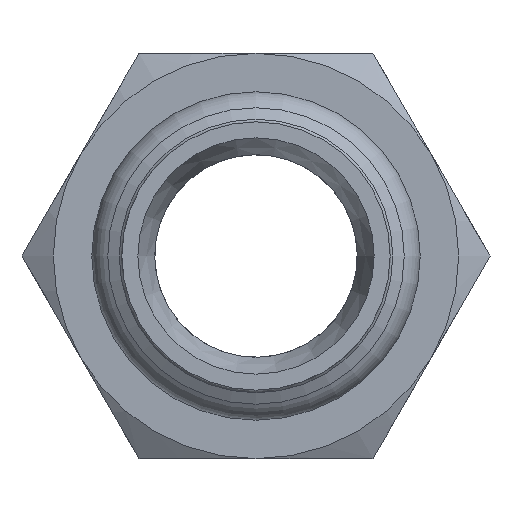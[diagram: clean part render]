
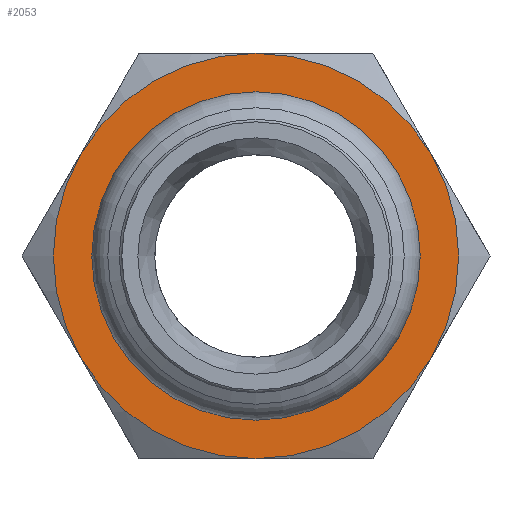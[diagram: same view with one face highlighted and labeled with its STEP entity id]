
A CAD part, left-side view. The second image highlights one B-rep face of the part: STEP entity #2053.
In plain terms, the highlighted planar face has unit normal (-1, 0, 0) as drawn and (0, 0, -1) by its records, which use the part's own axes.
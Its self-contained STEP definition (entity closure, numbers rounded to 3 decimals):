
#1513=CARTESIAN_POINT('',(16.454,9.5,0.));
#1514=VERTEX_POINT('',#1513);
#1528=CARTESIAN_POINT('',(16.454,-9.5,0.));
#1529=VERTEX_POINT('',#1528);
#1543=CARTESIAN_POINT('',(0.0,0.0,0.0));
#1544=DIRECTION('',(0.0,0.0,-1.0));
#1545=DIRECTION('',(0.0,-1.0,0.0));
#1546=AXIS2_PLACEMENT_3D('',#1543,#1544,#1545);
#1547=CIRCLE('',#1546,19.);
#1548=EDGE_CURVE('',#1514,#1529,#1547,.T.);
#1560=CARTESIAN_POINT('',(0.0,19.,0.));
#1561=VERTEX_POINT('',#1560);
#1588=CARTESIAN_POINT('',(0.0,0.0,0.0));
#1589=DIRECTION('',(0.0,0.0,-1.0));
#1590=DIRECTION('',(0.0,-1.0,0.0));
#1591=AXIS2_PLACEMENT_3D('',#1588,#1589,#1590);
#1592=CIRCLE('',#1591,19.);
#1593=EDGE_CURVE('',#1561,#1514,#1592,.T.);
#1605=CARTESIAN_POINT('',(-16.454,9.5,0.));
#1606=VERTEX_POINT('',#1605);
#1633=CARTESIAN_POINT('',(0.0,0.0,0.0));
#1634=DIRECTION('',(0.0,0.0,-1.0));
#1635=DIRECTION('',(0.0,-1.0,0.0));
#1636=AXIS2_PLACEMENT_3D('',#1633,#1634,#1635);
#1637=CIRCLE('',#1636,19.);
#1638=EDGE_CURVE('',#1606,#1561,#1637,.T.);
#1663=CARTESIAN_POINT('',(-16.454,-9.5,0.));
#1664=VERTEX_POINT('',#1663);
#1665=CARTESIAN_POINT('',(0.0,0.0,0.0));
#1666=DIRECTION('',(0.0,0.0,-1.0));
#1667=DIRECTION('',(0.0,-1.0,0.0));
#1668=AXIS2_PLACEMENT_3D('',#1665,#1666,#1667);
#1669=CIRCLE('',#1668,19.);
#1670=EDGE_CURVE('',#1664,#1606,#1669,.T.);
#1708=CARTESIAN_POINT('',(0.0,-19.0,0.0));
#1709=VERTEX_POINT('',#1708);
#1710=CARTESIAN_POINT('',(0.0,0.0,0.0));
#1711=DIRECTION('',(0.0,0.0,-1.0));
#1712=DIRECTION('',(0.0,-1.0,0.0));
#1713=AXIS2_PLACEMENT_3D('',#1710,#1711,#1712);
#1714=CIRCLE('',#1713,19.);
#1715=EDGE_CURVE('',#1709,#1664,#1714,.T.);
#1753=CARTESIAN_POINT('',(0.0,0.0,0.0));
#1754=DIRECTION('',(0.0,0.0,-1.0));
#1755=DIRECTION('',(0.0,-1.0,0.0));
#1756=AXIS2_PLACEMENT_3D('',#1753,#1754,#1755);
#1757=CIRCLE('',#1756,19.);
#1758=EDGE_CURVE('',#1529,#1709,#1757,.T.);
#1980=CARTESIAN_POINT('',(-13.0,0.0,0.0));
#1981=VERTEX_POINT('',#1980);
#1982=CARTESIAN_POINT('',(0.0,0.0,0.0));
#1983=DIRECTION('',(0.0,0.0,1.0));
#1984=DIRECTION('',(-1.0,0.0,0.0));
#1985=AXIS2_PLACEMENT_3D('',#1982,#1983,#1984);
#1986=CIRCLE('',#1985,13.0);
#1987=EDGE_CURVE('',#1981,#1981,#1986,.T.);
#2037=CARTESIAN_POINT('',(0.,0.,0.0));
#2038=DIRECTION('',(0.0,0.0,1.0));
#2039=DIRECTION('',(1.0,0.0,0.0));
#2040=AXIS2_PLACEMENT_3D('',#2037,#2038,#2039);
#2041=PLANE('',#2040);
#2042=ORIENTED_EDGE('',*,*,#1758,.T.);
#2043=ORIENTED_EDGE('',*,*,#1715,.T.);
#2044=ORIENTED_EDGE('',*,*,#1670,.T.);
#2045=ORIENTED_EDGE('',*,*,#1638,.T.);
#2046=ORIENTED_EDGE('',*,*,#1593,.T.);
#2047=ORIENTED_EDGE('',*,*,#1548,.T.);
#2048=EDGE_LOOP('',(#2042,#2043,#2044,#2045,#2046,#2047));
#2049=FACE_OUTER_BOUND('',#2048,.T.);
#2050=ORIENTED_EDGE('',*,*,#1987,.T.);
#2051=EDGE_LOOP('',(#2050));
#2052=FACE_BOUND('',#2051,.T.);
#2053=ADVANCED_FACE('',(#2049,#2052),#2041,.F.);
